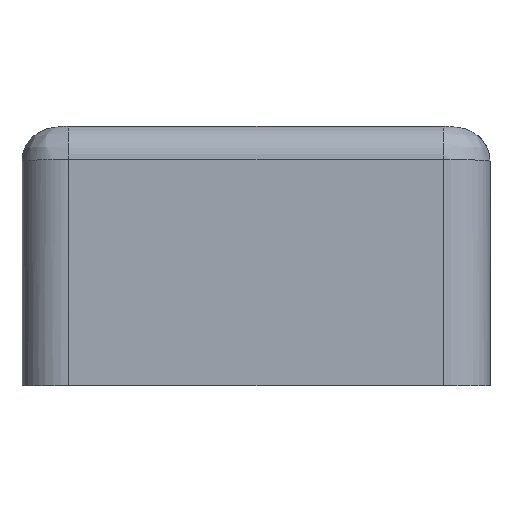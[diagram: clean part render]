
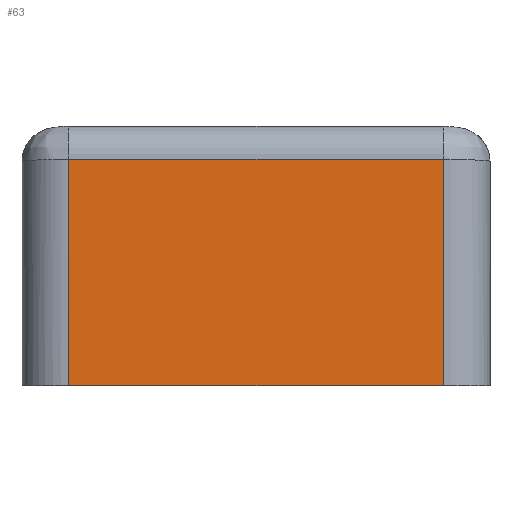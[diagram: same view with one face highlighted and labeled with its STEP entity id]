
A CAD part, left-side view. The second image highlights one B-rep face of the part: STEP entity #63.
In plain terms, the highlighted planar face has unit normal (-1, 0, 0).
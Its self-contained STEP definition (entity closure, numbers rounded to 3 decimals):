
#63 = ADVANCED_FACE('',(#64),#78,.F.);
#64 = FACE_BOUND('',#65,.F.);
#65 = EDGE_LOOP('',(#66,#101,#129,#157));
#66 = ORIENTED_EDGE('',*,*,#67,.T.);
#67 = EDGE_CURVE('',#68,#70,#72,.T.);
#68 = VERTEX_POINT('',#69);
#69 = CARTESIAN_POINT('',(-150.,56.,0.));
#70 = VERTEX_POINT('',#71);
#71 = CARTESIAN_POINT('',(-150.,56.,67.75));
#72 = SURFACE_CURVE('',#73,(#77,#89),.PCURVE_S1.);
#73 = LINE('',#74,#75);
#74 = CARTESIAN_POINT('',(-150.,56.,0.));
#75 = VECTOR('',#76,1.);
#76 = DIRECTION('',(0.,0.,1.));
#77 = PCURVE('',#78,#83);
#78 = PLANE('',#79);
#79 = AXIS2_PLACEMENT_3D('',#80,#81,#82);
#80 = CARTESIAN_POINT('',(-150.,-70.,0.));
#81 = DIRECTION('',(1.,0.,-0.));
#82 = DIRECTION('',(0.,0.,1.));
#83 = DEFINITIONAL_REPRESENTATION('',(#84),#88);
#84 = LINE('',#85,#86);
#85 = CARTESIAN_POINT('',(0.,-126.));
#86 = VECTOR('',#87,1.);
#87 = DIRECTION('',(1.,0.));
#88 = ( GEOMETRIC_REPRESENTATION_CONTEXT(2) 
PARAMETRIC_REPRESENTATION_CONTEXT() REPRESENTATION_CONTEXT('2D SPACE',''
  ) );
#89 = PCURVE('',#90,#95);
#90 = CYLINDRICAL_SURFACE('',#91,14.);
#91 = AXIS2_PLACEMENT_3D('',#92,#93,#94);
#92 = CARTESIAN_POINT('',(-136.,56.,0.));
#93 = DIRECTION('',(0.,0.,1.));
#94 = DIRECTION('',(-1.,-0.,0.));
#95 = DEFINITIONAL_REPRESENTATION('',(#96),#100);
#96 = LINE('',#97,#98);
#97 = CARTESIAN_POINT('',(-0.,0.));
#98 = VECTOR('',#99,1.);
#99 = DIRECTION('',(-0.,1.));
#100 = ( GEOMETRIC_REPRESENTATION_CONTEXT(2) 
PARAMETRIC_REPRESENTATION_CONTEXT() REPRESENTATION_CONTEXT('2D SPACE',''
  ) );
#101 = ORIENTED_EDGE('',*,*,#102,.T.);
#102 = EDGE_CURVE('',#70,#103,#105,.T.);
#103 = VERTEX_POINT('',#104);
#104 = CARTESIAN_POINT('',(-150.,-56.,67.75));
#105 = SURFACE_CURVE('',#106,(#110,#117),.PCURVE_S1.);
#106 = LINE('',#107,#108);
#107 = CARTESIAN_POINT('',(-150.,56.,67.75));
#108 = VECTOR('',#109,1.);
#109 = DIRECTION('',(0.,-1.,0.));
#110 = PCURVE('',#78,#111);
#111 = DEFINITIONAL_REPRESENTATION('',(#112),#116);
#112 = LINE('',#113,#114);
#113 = CARTESIAN_POINT('',(67.75,-126.));
#114 = VECTOR('',#115,1.);
#115 = DIRECTION('',(0.,1.));
#116 = ( GEOMETRIC_REPRESENTATION_CONTEXT(2) 
PARAMETRIC_REPRESENTATION_CONTEXT() REPRESENTATION_CONTEXT('2D SPACE',''
  ) );
#117 = PCURVE('',#118,#123);
#118 = CYLINDRICAL_SURFACE('',#119,10.);
#119 = AXIS2_PLACEMENT_3D('',#120,#121,#122);
#120 = CARTESIAN_POINT('',(-140.,56.,67.75));
#121 = DIRECTION('',(0.,-1.,0.));
#122 = DIRECTION('',(-1.,0.,0.));
#123 = DEFINITIONAL_REPRESENTATION('',(#124),#128);
#124 = LINE('',#125,#126);
#125 = CARTESIAN_POINT('',(-0.,0.));
#126 = VECTOR('',#127,1.);
#127 = DIRECTION('',(-0.,1.));
#128 = ( GEOMETRIC_REPRESENTATION_CONTEXT(2) 
PARAMETRIC_REPRESENTATION_CONTEXT() REPRESENTATION_CONTEXT('2D SPACE',''
  ) );
#129 = ORIENTED_EDGE('',*,*,#130,.F.);
#130 = EDGE_CURVE('',#131,#103,#133,.T.);
#131 = VERTEX_POINT('',#132);
#132 = CARTESIAN_POINT('',(-150.,-56.,0.));
#133 = SURFACE_CURVE('',#134,(#138,#145),.PCURVE_S1.);
#134 = LINE('',#135,#136);
#135 = CARTESIAN_POINT('',(-150.,-56.,0.));
#136 = VECTOR('',#137,1.);
#137 = DIRECTION('',(0.,0.,1.));
#138 = PCURVE('',#78,#139);
#139 = DEFINITIONAL_REPRESENTATION('',(#140),#144);
#140 = LINE('',#141,#142);
#141 = CARTESIAN_POINT('',(0.,-14.));
#142 = VECTOR('',#143,1.);
#143 = DIRECTION('',(1.,0.));
#144 = ( GEOMETRIC_REPRESENTATION_CONTEXT(2) 
PARAMETRIC_REPRESENTATION_CONTEXT() REPRESENTATION_CONTEXT('2D SPACE',''
  ) );
#145 = PCURVE('',#146,#151);
#146 = CYLINDRICAL_SURFACE('',#147,14.);
#147 = AXIS2_PLACEMENT_3D('',#148,#149,#150);
#148 = CARTESIAN_POINT('',(-136.,-56.,0.));
#149 = DIRECTION('',(0.,0.,1.));
#150 = DIRECTION('',(-1.,-0.,0.));
#151 = DEFINITIONAL_REPRESENTATION('',(#152),#156);
#152 = LINE('',#153,#154);
#153 = CARTESIAN_POINT('',(0.,0.));
#154 = VECTOR('',#155,1.);
#155 = DIRECTION('',(0.,1.));
#156 = ( GEOMETRIC_REPRESENTATION_CONTEXT(2) 
PARAMETRIC_REPRESENTATION_CONTEXT() REPRESENTATION_CONTEXT('2D SPACE',''
  ) );
#157 = ORIENTED_EDGE('',*,*,#158,.T.);
#158 = EDGE_CURVE('',#131,#68,#159,.T.);
#159 = SURFACE_CURVE('',#160,(#164,#171),.PCURVE_S1.);
#160 = LINE('',#161,#162);
#161 = CARTESIAN_POINT('',(-150.,-70.,0.));
#162 = VECTOR('',#163,1.);
#163 = DIRECTION('',(-0.,1.,0.));
#164 = PCURVE('',#78,#165);
#165 = DEFINITIONAL_REPRESENTATION('',(#166),#170);
#166 = LINE('',#167,#168);
#167 = CARTESIAN_POINT('',(0.,0.));
#168 = VECTOR('',#169,1.);
#169 = DIRECTION('',(0.,-1.));
#170 = ( GEOMETRIC_REPRESENTATION_CONTEXT(2) 
PARAMETRIC_REPRESENTATION_CONTEXT() REPRESENTATION_CONTEXT('2D SPACE',''
  ) );
#171 = PCURVE('',#172,#177);
#172 = PLANE('',#173);
#173 = AXIS2_PLACEMENT_3D('',#174,#175,#176);
#174 = CARTESIAN_POINT('',(-150.,-70.,0.));
#175 = DIRECTION('',(0.,0.,1.));
#176 = DIRECTION('',(1.,0.,-0.));
#177 = DEFINITIONAL_REPRESENTATION('',(#178),#182);
#178 = LINE('',#179,#180);
#179 = CARTESIAN_POINT('',(0.,0.));
#180 = VECTOR('',#181,1.);
#181 = DIRECTION('',(0.,1.));
#182 = ( GEOMETRIC_REPRESENTATION_CONTEXT(2) 
PARAMETRIC_REPRESENTATION_CONTEXT() REPRESENTATION_CONTEXT('2D SPACE',''
  ) );
